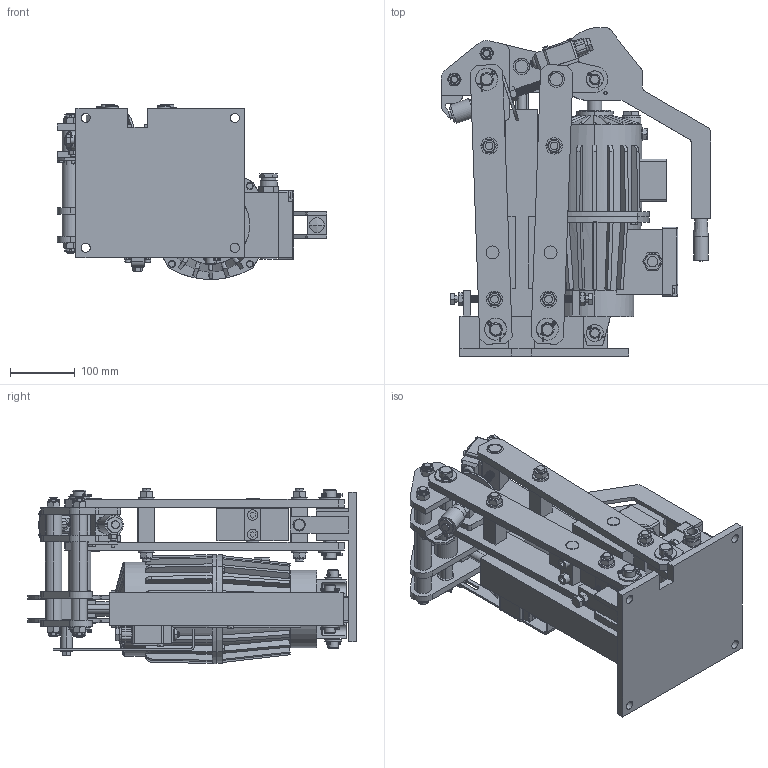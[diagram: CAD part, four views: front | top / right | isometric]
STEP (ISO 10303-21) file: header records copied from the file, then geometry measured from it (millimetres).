
FILE_DESCRIPTION((''),'2;1');
FILE_NAME('DS_160_FEA-452L-20_ASM','2021-06-11T',('BOLS'),(''),'CREO PARAMETRIC BY PTC INC, 2018360','CREO PARAMETRIC BY PTC INC, 2018360','');
FILE_SCHEMA(('CONFIG_CONTROL_DESIGN'));
Products named in the file (51): MSBR-48_1_MIR; MSBR-47_1_MIR; MSBR-46_1_MIR; MSBR-45_1_MIR; MSBR-44_1_MIR; MSBR-43_1_MIR; MSBR-42_1_MIR; MSBR-41_1_MIR; MSBR-40_1_MIR; MSBR-39_1_MIR; MSBR-38_1_MIR; MSBR-37_1_MIR; MSBR-36_1_MIR; MSBR-35_1_MIR; MSBR-34_1_MIR; MSBR-33_1_MIR; MSBR-32_1_MIR; MSBR-31_1_MIR; MSBR-30_1_MIR; MSBR-29_1_MIR; MSBR-28_1_MIR; MSBR-27_1_MIR; MSBR-26_1_MIR; MSBR-25_1_MIR; MSBR-24_1_MIR; MSBR-23_1_MIR; MSBR-22_1_MIR; MSBR-21_1_MIR; MSBR-20_1_MIR; MSBR-19_1_MIR; MSBR-18_1_MIR; MSBR-17_1_MIR; MSBR-16_1_MIR; MSBR-15_1_MIR; MSBR-14_1_MIR; MSBR-13_1_MIR; MSBR-12_1_MIR; MSBR-11_1_MIR; MSBR-10_1_MIR; MSBR-9_1_MIR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
Assembly tree (50 placements, depth 3):
  DS_160_FEA-452L-20_ASM
    DS_160_FEA-452R-20_ASM_1_MIR_ASM
      MSBR-48_1_MIR
      MSBR-47_1_MIR
      MSBR-46_1_MIR
      MSBR-45_1_MIR
      MSBR-44_1_MIR
      MSBR-43_1_MIR
      MSBR-42_1_MIR
      MSBR-41_1_MIR
      MSBR-40_1_MIR
      MSBR-39_1_MIR
      MSBR-38_1_MIR
      MSBR-37_1_MIR
      MSBR-36_1_MIR
      MSBR-35_1_MIR
      MSBR-34_1_MIR
      MSBR-33_1_MIR
      MSBR-32_1_MIR
      MSBR-31_1_MIR
      MSBR-30_1_MIR
      MSBR-29_1_MIR
      MSBR-28_1_MIR
      MSBR-27_1_MIR
      MSBR-26_1_MIR
      MSBR-25_1_MIR
      MSBR-24_1_MIR
      MSBR-23_1_MIR
      MSBR-22_1_MIR
      MSBR-21_1_MIR
      MSBR-20_1_MIR
      MSBR-19_1_MIR
      MSBR-18_1_MIR
      MSBR-17_1_MIR
      MSBR-16_1_MIR
      MSBR-15_1_MIR
      MSBR-14_1_MIR
      MSBR-13_1_MIR
      MSBR-12_1_MIR
      MSBR-11_1_MIR
      MSBR-10_1_MIR
      MSBR-9_1_MIR
      MSBR-8_1_MIR
      MSBR-7_1_MIR
      MSBR-6_1_MIR
      MSBR-5_1_MIR
      MSBR-4_1_MIR
      MSBR-3_1_MIR
      MSBR-2_1_MIR
      MSBR-1_1_MIR
      _DS_160_FEA-452R-20_1_MIR
Bounding box: 415.18 x 506.99 x 270 mm (x, y, z)
Volume: 2715433.6 mm3; surface area: 1525732 mm2
Topology: 48 solids, 111 shells, 3039 faces, 8295 edges, 5223 vertices
Faces by surface type: plane 1321, cylinder 953, cone 575, torus 155, bspline 35
Entity records: 139714 total; most frequent: CARTESIAN_POINT 36226, DIRECTION 16113, ORIENTED_EDGE 15866, PRESENTATION_STYLE_ASSIGNMENT 8365, STYLED_ITEM 8365, CURVE_STYLE 8256, EDGE_CURVE 8256, AXIS2_PLACEMENT_3D 6209
